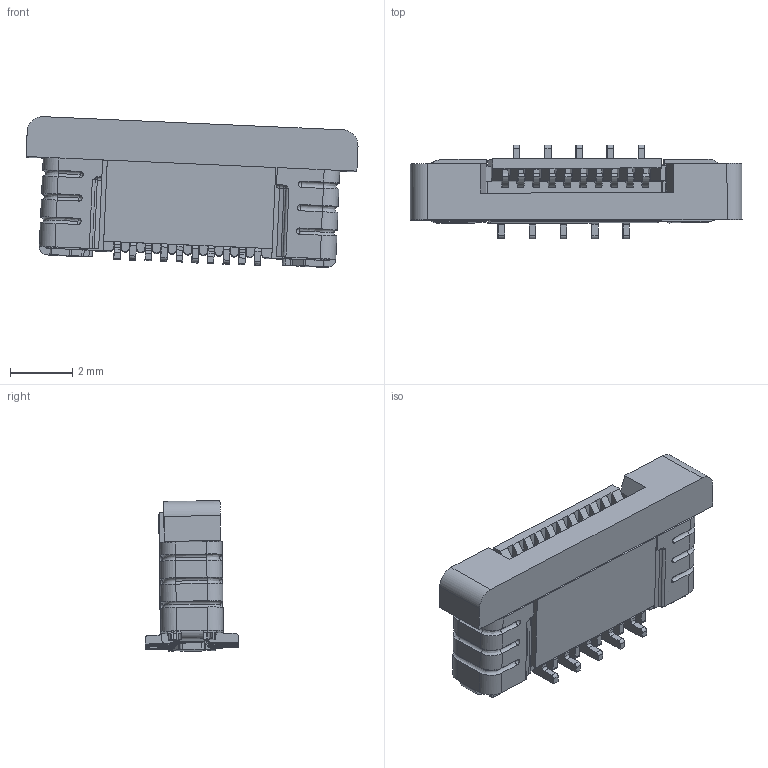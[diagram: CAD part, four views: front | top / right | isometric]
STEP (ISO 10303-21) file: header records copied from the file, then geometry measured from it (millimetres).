
FILE_DESCRIPTION (( 'STEP AP214' ), '1' );
FILE_NAME ('2345-C10TD3AT-S.STEP', '2020-08-03T09:03:25', ( '' ), ( '' ), 'SwSTEP 2.0', 'SolidWorks 2019', '' );
FILE_SCHEMA (( 'AUTOMOTIVE_DESIGN' ));
Length unit declared in the file: millimetre
Products named in the file (4): Assembly-1; 36pin衵諉; HS16; 2345-C10TD3AT-S
Assembly tree (3 placements, depth 4):
  2345-C10TD3AT-S
    Assembly-1
      36pin衵諉
        HS16
Bounding box: 10.63 x 3.01 x 4.82 mm (x, y, z)
Volume: 67.9 mm3; surface area: 305.8 mm2
Topology: 1 solids, 1 shells, 894 faces, 2544 edges, 1646 vertices
Faces by surface type: plane 552, cylinder 309, bspline 33
Entity records: 40621 total; most frequent: CARTESIAN_POINT 8265, ORIENTED_EDGE 5072, DIRECTION 4161, EDGE_CURVE 2536, VERTEX_POINT 1646, VECTOR 1545, LINE 1545, AXIS2_PLACEMENT_3D 1308
